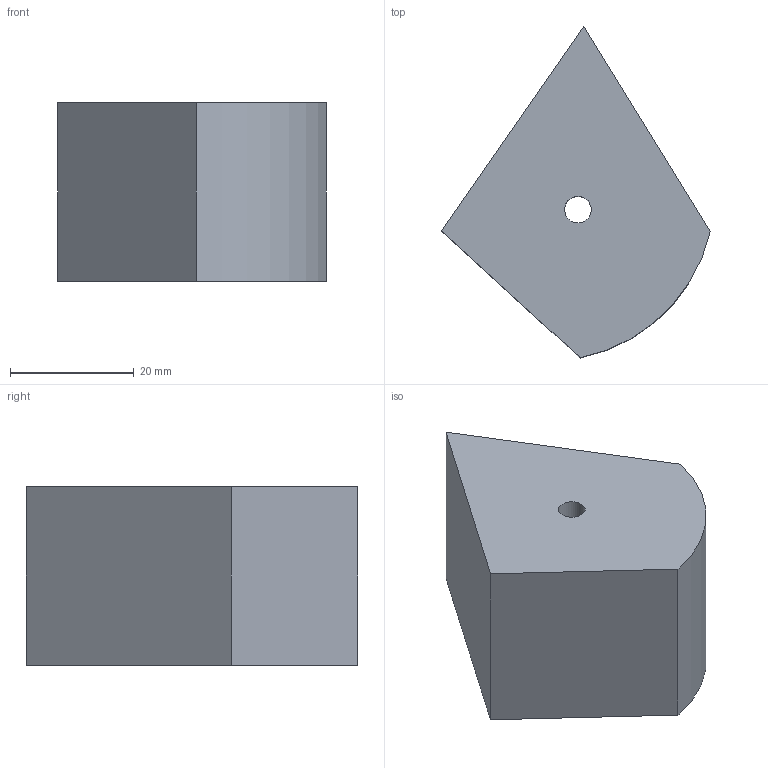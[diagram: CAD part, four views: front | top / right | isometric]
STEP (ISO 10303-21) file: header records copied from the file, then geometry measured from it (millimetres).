
FILE_DESCRIPTION(('Mechanical CAD reference from nasji.com'),'2;1');
FILE_NAME('NASJI.step','',(''),(''),'','NASJI distribution','');
FILE_SCHEMA(('AUTOMOTIVE_DESIGN { 1 0 10303 214 1 1 1 1 }'));
Length unit declared in the file: millimetre
Products named in the file (1): Open CASCADE STEP translator 7.8 131
Bounding box: 43.35 x 53.54 x 28.86 mm (x, y, z)
Volume: 35584.6 mm3; surface area: 6909.5 mm2
Topology: 1 solids, 1 shells, 7 faces, 15 edges, 10 vertices
Faces by surface type: plane 5, cylinder 2
Full cylindrical faces by diameter (mm): 4.3 x1
Entity records: 408 total; most frequent: CARTESIAN_POINT 75, DIRECTION 63, LINE 37, VECTOR 37, ORIENTED_EDGE 30, PCURVE 30, DEFINITIONAL_REPRESENTATION 30, EDGE_CURVE 15
